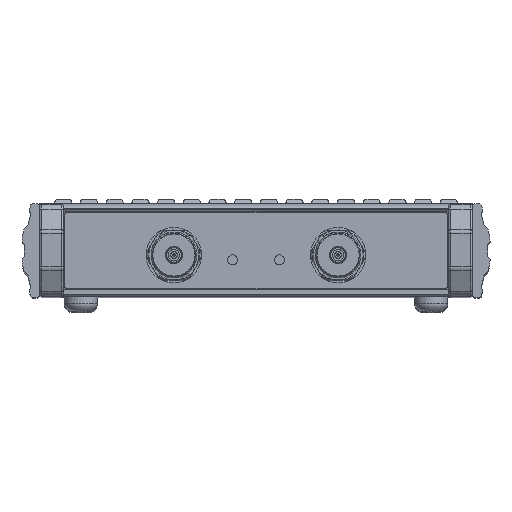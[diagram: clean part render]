
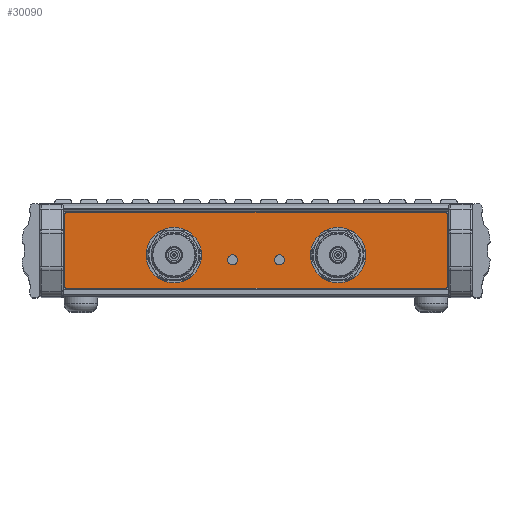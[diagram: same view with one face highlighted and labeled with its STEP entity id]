
A CAD part, top view. The second image highlights one B-rep face of the part: STEP entity #30090.
In plain terms, the highlighted planar face has unit normal (0, 0, 1).
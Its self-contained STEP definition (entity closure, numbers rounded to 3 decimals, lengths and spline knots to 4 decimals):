
#72 = DIRECTION ( 'NONE',  ( 0., -1., 0. ) ) ;
#1049 = DIRECTION ( 'NONE',  ( 0., 0., 1. ) ) ;
#1324 = VERTEX_POINT ( 'NONE', #66385 ) ;
#1824 = CARTESIAN_POINT ( 'NONE',  ( 2.865, 0.715, -0.016 ) ) ;
#2649 = CIRCLE ( 'NONE', #51906, 0.03 ) ;
#2965 = CARTESIAN_POINT ( 'NONE',  ( 0.35, 0.0275, -0.016 ) ) ;
#3091 = CIRCLE ( 'NONE', #63269, 0.415 ) ;
#3707 = EDGE_LOOP ( 'NONE', ( #6115 ) ) ;
#4836 = EDGE_LOOP ( 'NONE', ( #66731 ) ) ;
#5269 = ORIENTED_EDGE ( 'NONE', *, *, #36075, .F. ) ;
#6115 = ORIENTED_EDGE ( 'NONE', *, *, #9583, .F. ) ;
#6445 = EDGE_CURVE ( 'NONE', #54218, #65259, #25606, .T. ) ;
#6880 = EDGE_CURVE ( 'NONE', #59558, #1324, #55537, .T. ) ;
#7372 = CIRCLE ( 'NONE', #12856, 0.075 ) ;
#8953 = VERTEX_POINT ( 'NONE', #50695 ) ;
#9149 = DIRECTION ( 'NONE',  ( 0., 0., 1. ) ) ;
#9468 = ORIENTED_EDGE ( 'NONE', *, *, #59667, .T. ) ;
#9583 = EDGE_CURVE ( 'NONE', #8953, #8953, #7372, .T. ) ;
#9604 = CARTESIAN_POINT ( 'NONE',  ( 2.835, -0.4, -0.016 ) ) ;
#10280 = DIRECTION ( 'NONE',  ( -1., 0., 0. ) ) ;
#10528 = VERTEX_POINT ( 'NONE', #55565 ) ;
#10934 = AXIS2_PLACEMENT_3D ( 'NONE', #12778, #50069, #23705 ) ;
#11172 = ORIENTED_EDGE ( 'NONE', *, *, #53454, .T. ) ;
#11341 = DIRECTION ( 'NONE',  ( 0., 0., 1. ) ) ;
#12778 = CARTESIAN_POINT ( 'NONE',  ( 2.835, 0.715, -0.016 ) ) ;
#12856 = AXIS2_PLACEMENT_3D ( 'NONE', #2965, #9149, #45775 ) ;
#13711 = ORIENTED_EDGE ( 'NONE', *, *, #6880, .T. ) ;
#13784 = PLANE ( 'NONE',  #10934 ) ;
#14139 = FACE_BOUND ( 'NONE', #3707, .T. ) ;
#15420 = CARTESIAN_POINT ( 'NONE',  ( -2.835, 0.745, -0.016 ) ) ;
#15846 = CIRCLE ( 'NONE', #20180, 0.075 ) ;
#15877 = VERTEX_POINT ( 'NONE', #42718 ) ;
#16484 = CARTESIAN_POINT ( 'NONE',  ( -0.35, 0.0275, -0.016 ) ) ;
#17160 = VERTEX_POINT ( 'NONE', #27433 ) ;
#17958 = EDGE_CURVE ( 'NONE', #15877, #46859, #2649, .T. ) ;
#18139 = EDGE_CURVE ( 'NONE', #41279, #41279, #15846, .T. ) ;
#18230 = FACE_BOUND ( 'NONE', #4836, .T. ) ;
#18917 = FACE_BOUND ( 'NONE', #29854, .T. ) ;
#19570 = DIRECTION ( 'NONE',  ( 1., 0., 0. ) ) ;
#20180 = AXIS2_PLACEMENT_3D ( 'NONE', #16484, #1049, #47280 ) ;
#20321 = DIRECTION ( 'NONE',  ( 1., 0., 0. ) ) ;
#20615 = EDGE_CURVE ( 'NONE', #46859, #59558, #52780, .T. ) ;
#20710 = EDGE_CURVE ( 'NONE', #65259, #10528, #32736, .T. ) ;
#21025 = CARTESIAN_POINT ( 'NONE',  ( -2.865, 0.715, -0.016 ) ) ;
#22277 = LINE ( 'NONE', #43845, #41239 ) ;
#22910 = AXIS2_PLACEMENT_3D ( 'NONE', #37018, #11341, #42498 ) ;
#23705 = DIRECTION ( 'NONE',  ( -1., 0., 0. ) ) ;
#23974 = VECTOR ( 'NONE', #72, 39.3701 ) ;
#24606 = DIRECTION ( 'NONE',  ( 1., 0., 0. ) ) ;
#25446 = CARTESIAN_POINT ( 'NONE',  ( -2.835, 0.715, -0.016 ) ) ;
#25506 = DIRECTION ( 'NONE',  ( 0., 0., 1. ) ) ;
#25606 = LINE ( 'NONE', #45840, #53317 ) ;
#26074 = CARTESIAN_POINT ( 'NONE',  ( -2.865, 0.715, -0.016 ) ) ;
#26222 = VECTOR ( 'NONE', #57517, 39.3701 ) ;
#26275 = AXIS2_PLACEMENT_3D ( 'NONE', #30850, #35633, #19570 ) ;
#27012 = CARTESIAN_POINT ( 'NONE',  ( 1.23, 0.1, -0.016 ) ) ;
#27284 = ORIENTED_EDGE ( 'NONE', *, *, #20615, .T. ) ;
#27433 = CARTESIAN_POINT ( 'NONE',  ( -0.815, 0.1, -0.016 ) ) ;
#28218 = EDGE_CURVE ( 'NONE', #17160, #17160, #58033, .T. ) ;
#29421 = DIRECTION ( 'NONE',  ( 0., 0., 1. ) ) ;
#29854 = EDGE_LOOP ( 'NONE', ( #5269 ) ) ;
#30070 = DIRECTION ( 'NONE',  ( 0., 1., 0. ) ) ;
#30090 = ADVANCED_FACE ( 'NONE', ( #18230, #14139, #60711, #18917, #33648 ), #13784, .F. ) ;
#30383 = EDGE_CURVE ( 'NONE', #10528, #15877, #35930, .T. ) ;
#30682 = ORIENTED_EDGE ( 'NONE', *, *, #28218, .F. ) ;
#30701 = ORIENTED_EDGE ( 'NONE', *, *, #30383, .T. ) ;
#30850 = CARTESIAN_POINT ( 'NONE',  ( -1.23, 0.1, -0.016 ) ) ;
#30935 = VERTEX_POINT ( 'NONE', #51831 ) ;
#32736 = CIRCLE ( 'NONE', #22910, 0.03 ) ;
#33648 = FACE_OUTER_BOUND ( 'NONE', #47458, .T. ) ;
#35633 = DIRECTION ( 'NONE',  ( 0., 0., 1. ) ) ;
#35736 = VERTEX_POINT ( 'NONE', #9604 ) ;
#35930 = LINE ( 'NONE', #15420, #26222 ) ;
#36075 = EDGE_CURVE ( 'NONE', #30935, #30935, #3091, .T. ) ;
#36286 = DIRECTION ( 'NONE',  ( 0., 0., 1. ) ) ;
#37018 = CARTESIAN_POINT ( 'NONE',  ( 2.835, 0.715, -0.016 ) ) ;
#40606 = CARTESIAN_POINT ( 'NONE',  ( -0.275, 0.0275, -0.016 ) ) ;
#41239 = VECTOR ( 'NONE', #59616, 39.3701 ) ;
#41279 = VERTEX_POINT ( 'NONE', #40606 ) ;
#42010 = CIRCLE ( 'NONE', #50767, 0.03 ) ;
#42498 = DIRECTION ( 'NONE',  ( -1., 0., 0. ) ) ;
#42718 = CARTESIAN_POINT ( 'NONE',  ( -2.835, 0.745, -0.016 ) ) ;
#43845 = CARTESIAN_POINT ( 'NONE',  ( -2.835, -0.4, -0.016 ) ) ;
#44003 = ORIENTED_EDGE ( 'NONE', *, *, #6445, .T. ) ;
#45775 = DIRECTION ( 'NONE',  ( 1., 0., 0. ) ) ;
#45840 = CARTESIAN_POINT ( 'NONE',  ( 2.865, 0.715, -0.016 ) ) ;
#46859 = VERTEX_POINT ( 'NONE', #21025 ) ;
#47280 = DIRECTION ( 'NONE',  ( 1., 0., 0. ) ) ;
#47458 = EDGE_LOOP ( 'NONE', ( #50303, #30701, #48691, #27284, #13711, #9468, #11172, #44003 ) ) ;
#47836 = AXIS2_PLACEMENT_3D ( 'NONE', #65081, #29421, #24606 ) ;
#48691 = ORIENTED_EDGE ( 'NONE', *, *, #17958, .T. ) ;
#50069 = DIRECTION ( 'NONE',  ( 0., 0., -1. ) ) ;
#50303 = ORIENTED_EDGE ( 'NONE', *, *, #20710, .T. ) ;
#50695 = CARTESIAN_POINT ( 'NONE',  ( 0.425, 0.0275, -0.016 ) ) ;
#50767 = AXIS2_PLACEMENT_3D ( 'NONE', #57385, #25506, #61188 ) ;
#51831 = CARTESIAN_POINT ( 'NONE',  ( 0.815, 0.1, -0.016 ) ) ;
#51906 = AXIS2_PLACEMENT_3D ( 'NONE', #25446, #67273, #20321 ) ;
#52780 = LINE ( 'NONE', #26074, #23974 ) ;
#53317 = VECTOR ( 'NONE', #30070, 39.3701 ) ;
#53454 = EDGE_CURVE ( 'NONE', #35736, #54218, #42010, .T. ) ;
#54098 = EDGE_LOOP ( 'NONE', ( #30682 ) ) ;
#54218 = VERTEX_POINT ( 'NONE', #57891 ) ;
#55537 = CIRCLE ( 'NONE', #47836, 0.03 ) ;
#55565 = CARTESIAN_POINT ( 'NONE',  ( 2.835, 0.745, -0.016 ) ) ;
#57385 = CARTESIAN_POINT ( 'NONE',  ( 2.835, -0.37, -0.016 ) ) ;
#57517 = DIRECTION ( 'NONE',  ( -1., 0., 0. ) ) ;
#57891 = CARTESIAN_POINT ( 'NONE',  ( 2.865, -0.37, -0.016 ) ) ;
#58033 = CIRCLE ( 'NONE', #26275, 0.415 ) ;
#59558 = VERTEX_POINT ( 'NONE', #63173 ) ;
#59616 = DIRECTION ( 'NONE',  ( 1., 0., 0. ) ) ;
#59667 = EDGE_CURVE ( 'NONE', #1324, #35736, #22277, .T. ) ;
#60711 = FACE_BOUND ( 'NONE', #54098, .T. ) ;
#61188 = DIRECTION ( 'NONE',  ( 1., 0., 0. ) ) ;
#63173 = CARTESIAN_POINT ( 'NONE',  ( -2.865, -0.37, -0.016 ) ) ;
#63269 = AXIS2_PLACEMENT_3D ( 'NONE', #27012, #36286, #10280 ) ;
#65081 = CARTESIAN_POINT ( 'NONE',  ( -2.835, -0.37, -0.016 ) ) ;
#65259 = VERTEX_POINT ( 'NONE', #1824 ) ;
#66385 = CARTESIAN_POINT ( 'NONE',  ( -2.835, -0.4, -0.016 ) ) ;
#66731 = ORIENTED_EDGE ( 'NONE', *, *, #18139, .F. ) ;
#67273 = DIRECTION ( 'NONE',  ( 0., 0., 1. ) ) ;
